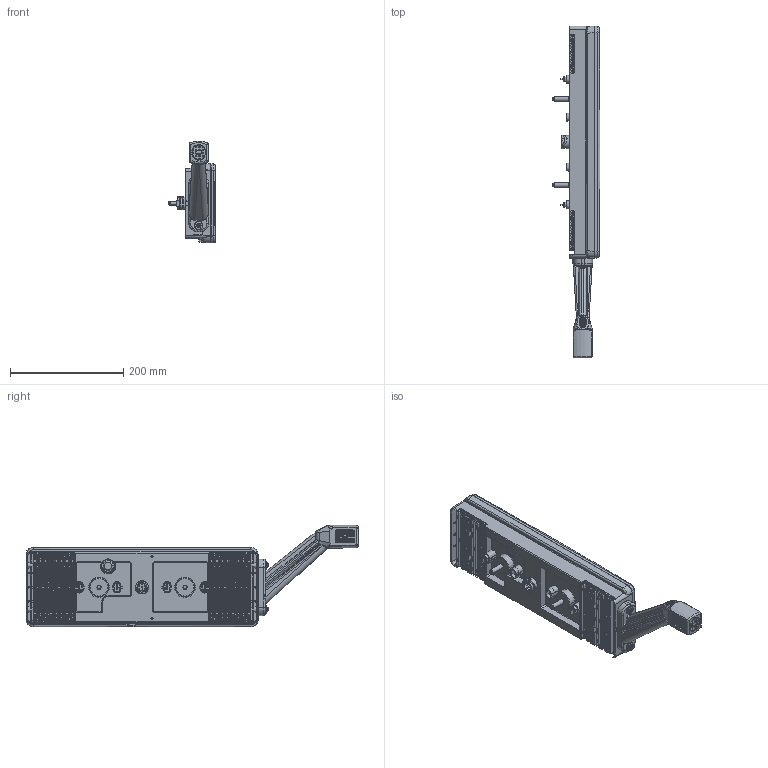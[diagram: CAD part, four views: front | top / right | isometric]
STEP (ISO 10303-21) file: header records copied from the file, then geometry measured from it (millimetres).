
FILE_DESCRIPTION(('CATIA V5 STEP Exchange','CAx-IF Rec.Pracs.--- Model Styling and Organization---1.5--- 2016-08-15','CAx-IF Rec.Pracs.---Supplemental Geometry---1.0---2011-11-01','CAx-IF Rec.Pracs.--- Composite Materials ---1.1---2010-07-15'),'2;1');
FILE_NAME('E:\tmp\ddx\2011206\HELLA_3D_data_Full_LED_rear_lamp_340-970_Trailer.stp','2022-01-18T07:24:31+00:00',('none'),('none'),'CATIA Version 5-6 Release 2020 SP3 HF9','CATIA V5 STEP AP214 Edition 3 v2','none');
FILE_SCHEMA(('AUTOMOTIVE_DESIGN { 1 0 10303 214 3 1 1 1 }'));
Products named in the file (1): 10002973890_D10_001
Bounding box: 84.25 x 586.7 x 179.94 mm (x, y, z)
Volume: 2782887.7 mm3; surface area: 332303.6 mm2
Topology: 1 solids, 1 shells, 9489 faces, 26614 edges, 16730 vertices
Faces by surface type: bspline 3443, plane 3162, cylinder 1553, sphere 526, cone 450, torus 325, revolution 16, extrusion 14
Entity records: 383653 total; most frequent: CARTESIAN_POINT 178978, ORIENTED_EDGE 51996, EDGE_CURVE 25998, DIRECTION 25733, VERTEX_POINT 16705, VECTOR 11851, LINE 11837, B_SPLINE_CURVE_WITH_KNOTS 11554
